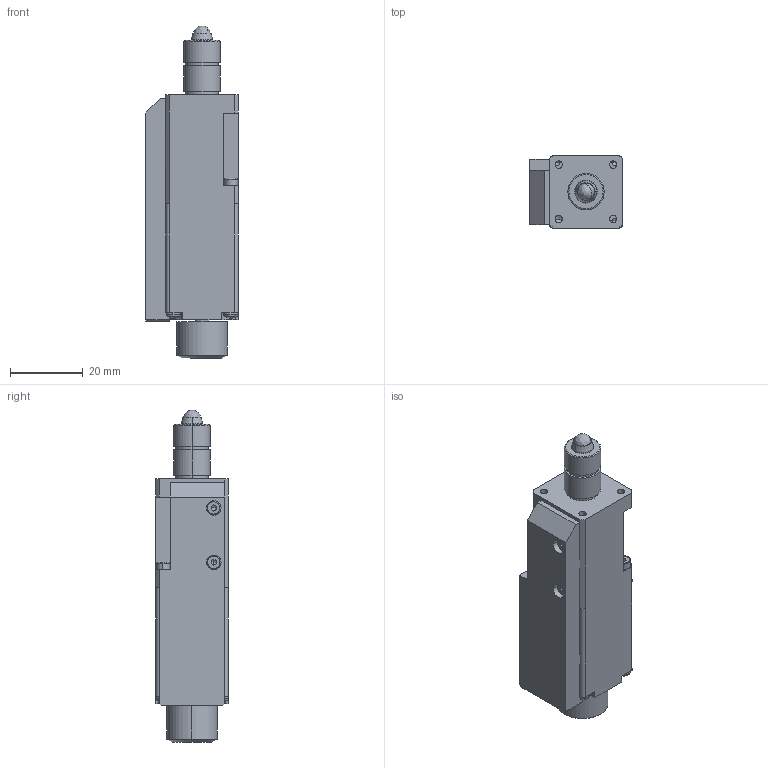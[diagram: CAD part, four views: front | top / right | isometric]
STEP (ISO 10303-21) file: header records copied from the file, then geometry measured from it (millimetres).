
FILE_DESCRIPTION (( 'STEP AP203' ), '1' );
FILE_NAME ('8CMA06-13-15.STEP', '2008-09-26T17:59:19', ( 'Darius' ), ( '' ), 'SwSTEP 2.0', 'SolidWorks 2003240', '' );
FILE_SCHEMA (( 'CONFIG_CONTROL_DESIGN' ));
Length unit declared in the file: millimetre
Products named in the file (1): 8CMA06-13-15
Bounding box: 25.5 x 20 x 91.47 mm (x, y, z)
Volume: 31764.3 mm3; surface area: 10299.2 mm2
Topology: 1 solids, 6 shells, 471 faces, 1220 edges, 787 vertices
Faces by surface type: plane 236, cylinder 90, bspline 73, cone 72
Entity records: 16377 total; most frequent: CARTESIAN_POINT 5453, ORIENTED_EDGE 2396, DIRECTION 1993, EDGE_CURVE 1198, VERTEX_POINT 787, AXIS2_PLACEMENT_3D 692, LINE 609, VECTOR 609
